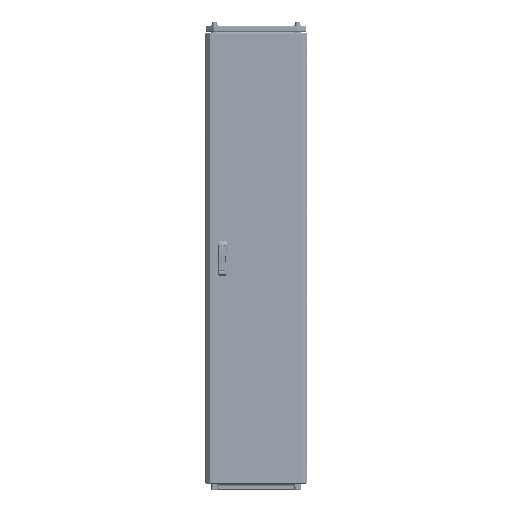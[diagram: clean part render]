
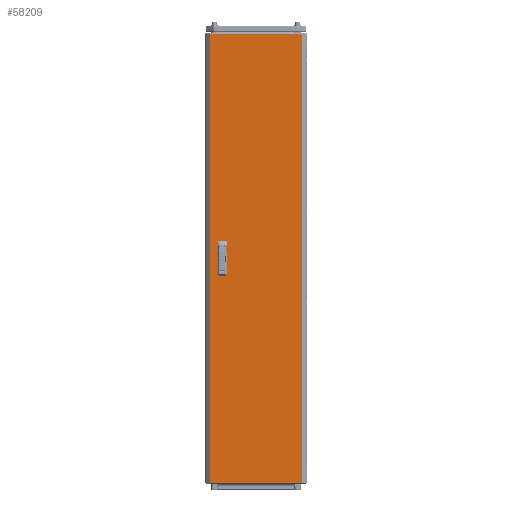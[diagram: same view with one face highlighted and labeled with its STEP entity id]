
A CAD part, top view. The second image highlights one B-rep face of the part: STEP entity #58209.
In plain terms, the highlighted planar face has unit normal (0, 0, 1).
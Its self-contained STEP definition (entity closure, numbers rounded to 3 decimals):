
#254 = EDGE_CURVE ( 'NONE', #63213, #200160, #193614, .T. ) ;
#410 = VERTEX_POINT ( 'NONE', #139336 ) ;
#3100 = EDGE_CURVE ( 'NONE', #15030, #108445, #29573, .T. ) ;
#5612 = CARTESIAN_POINT ( 'NONE',  ( -142.5, -12.5, 0. ) ) ;
#9098 = ORIENTED_EDGE ( 'NONE', *, *, #238862, .T. ) ;
#9614 = DIRECTION ( 'NONE',  ( 0., 1., 0. ) ) ;
#9977 = VECTOR ( 'NONE', #79504, 1000. ) ;
#10530 = DIRECTION ( 'NONE',  ( 0., -1., 0. ) ) ;
#13150 = CARTESIAN_POINT ( 'NONE',  ( 177.875, -869.5, 0. ) ) ;
#14720 = DIRECTION ( 'NONE',  ( -1., 0., 0. ) ) ;
#15030 = VERTEX_POINT ( 'NONE', #71190 ) ;
#18045 = ORIENTED_EDGE ( 'NONE', *, *, #35035, .F. ) ;
#18335 = LINE ( 'NONE', #226980, #133010 ) ;
#19978 = ORIENTED_EDGE ( 'NONE', *, *, #113082, .F. ) ;
#29234 = CARTESIAN_POINT ( 'NONE',  ( -177.875, 869.5, 0. ) ) ;
#29252 = LINE ( 'NONE', #197345, #104530 ) ;
#29573 = LINE ( 'NONE', #239360, #109681 ) ;
#35035 = EDGE_CURVE ( 'NONE', #136163, #144313, #231529, .T. ) ;
#36386 = VECTOR ( 'NONE', #144486, 1000. ) ;
#36800 = AXIS2_PLACEMENT_3D ( 'NONE', #105258, #236586, #48805 ) ;
#38153 = CARTESIAN_POINT ( 'NONE',  ( -117.5, 12.5, 0. ) ) ;
#40149 = CARTESIAN_POINT ( 'NONE',  ( -117.5, -12.5, 0. ) ) ;
#40312 = VERTEX_POINT ( 'NONE', #113988 ) ;
#48805 = DIRECTION ( 'NONE',  ( -1., 0., 0. ) ) ;
#52642 = CARTESIAN_POINT ( 'NONE',  ( -142.5, -62.5, 0. ) ) ;
#52842 = VECTOR ( 'NONE', #113293, 1000. ) ;
#58209 = ADVANCED_FACE ( 'NONE', ( #70825, #200940, #237793 ), #220574, .F. ) ;
#58551 = ORIENTED_EDGE ( 'NONE', *, *, #129957, .T. ) ;
#63213 = VERTEX_POINT ( 'NONE', #194286 ) ;
#68603 = DIRECTION ( 'NONE',  ( 1., 0., 0. ) ) ;
#70825 = FACE_BOUND ( 'NONE', #140730, .T. ) ;
#71190 = CARTESIAN_POINT ( 'NONE',  ( -142.5, 12.5, 0. ) ) ;
#73153 = LINE ( 'NONE', #13150, #36386 ) ;
#74921 = VECTOR ( 'NONE', #102706, 1000. ) ;
#79504 = DIRECTION ( 'NONE',  ( 0., -1., 0. ) ) ;
#82713 = CARTESIAN_POINT ( 'NONE',  ( -117.5, -62.5, 0. ) ) ;
#88441 = ORIENTED_EDGE ( 'NONE', *, *, #205636, .F. ) ;
#91504 = EDGE_CURVE ( 'NONE', #108445, #116427, #181174, .T. ) ;
#101184 = CARTESIAN_POINT ( 'NONE',  ( -117.5, 62.5, 0. ) ) ;
#102706 = DIRECTION ( 'NONE',  ( 1., 0., 0. ) ) ;
#104530 = VECTOR ( 'NONE', #9614, 1000. ) ;
#104553 = EDGE_LOOP ( 'NONE', ( #19978, #224230, #88441, #18045 ) ) ;
#105258 = CARTESIAN_POINT ( 'NONE',  ( 0., 0., 0. ) ) ;
#106948 = EDGE_CURVE ( 'NONE', #116427, #40312, #240950, .T. ) ;
#107381 = CARTESIAN_POINT ( 'NONE',  ( -142.5, -62.5, 0. ) ) ;
#107901 = LINE ( 'NONE', #52642, #168096 ) ;
#108445 = VERTEX_POINT ( 'NONE', #38153 ) ;
#108860 = VECTOR ( 'NONE', #14720, 1000. ) ;
#109644 = CARTESIAN_POINT ( 'NONE',  ( -142.5, 62.5, 0. ) ) ;
#109681 = VECTOR ( 'NONE', #160879, 1000. ) ;
#113082 = EDGE_CURVE ( 'NONE', #198361, #136163, #182823, .T. ) ;
#113293 = DIRECTION ( 'NONE',  ( -1., 0., 0. ) ) ;
#113988 = CARTESIAN_POINT ( 'NONE',  ( -142.5, 62.5, 0. ) ) ;
#114959 = CARTESIAN_POINT ( 'NONE',  ( -177.875, -869.5, 0. ) ) ;
#115287 = VERTEX_POINT ( 'NONE', #82713 ) ;
#116427 = VERTEX_POINT ( 'NONE', #101184 ) ;
#121466 = ORIENTED_EDGE ( 'NONE', *, *, #186275, .F. ) ;
#122327 = CARTESIAN_POINT ( 'NONE',  ( -177.875, -869.5, 0. ) ) ;
#128790 = VECTOR ( 'NONE', #161721, 1000. ) ;
#129566 = CARTESIAN_POINT ( 'NONE',  ( 177.875, 869.5, 0. ) ) ;
#129957 = EDGE_CURVE ( 'NONE', #149146, #63213, #213379, .T. ) ;
#133010 = VECTOR ( 'NONE', #166845, 1000. ) ;
#136163 = VERTEX_POINT ( 'NONE', #5612 ) ;
#139336 = CARTESIAN_POINT ( 'NONE',  ( 177.875, -869.5, 0. ) ) ;
#139894 = ORIENTED_EDGE ( 'NONE', *, *, #106948, .F. ) ;
#140730 = EDGE_LOOP ( 'NONE', ( #139894, #193794, #184442, #121466 ) ) ;
#144313 = VERTEX_POINT ( 'NONE', #107381 ) ;
#144486 = DIRECTION ( 'NONE',  ( 0., 1., 0. ) ) ;
#149146 = VERTEX_POINT ( 'NONE', #129566 ) ;
#151344 = ORIENTED_EDGE ( 'NONE', *, *, #254, .T. ) ;
#160879 = DIRECTION ( 'NONE',  ( 1., 0., 0. ) ) ;
#161206 = EDGE_CURVE ( 'NONE', #115287, #198361, #29252, .T. ) ;
#161721 = DIRECTION ( 'NONE',  ( -1., 0., 0. ) ) ;
#166845 = DIRECTION ( 'NONE',  ( 0., -1., 0. ) ) ;
#168096 = VECTOR ( 'NONE', #68603, 1000. ) ;
#175197 = ORIENTED_EDGE ( 'NONE', *, *, #188808, .T. ) ;
#175219 = CARTESIAN_POINT ( 'NONE',  ( -177.875, -869.5, 0. ) ) ;
#179206 = CARTESIAN_POINT ( 'NONE',  ( -142.5, -12.5, 0. ) ) ;
#181174 = LINE ( 'NONE', #199614, #202427 ) ;
#182823 = LINE ( 'NONE', #179206, #108860 ) ;
#184442 = ORIENTED_EDGE ( 'NONE', *, *, #3100, .F. ) ;
#186275 = EDGE_CURVE ( 'NONE', #40312, #15030, #18335, .T. ) ;
#188808 = EDGE_CURVE ( 'NONE', #200160, #410, #192327, .T. ) ;
#189446 = VECTOR ( 'NONE', #10530, 1000. ) ;
#192327 = LINE ( 'NONE', #122327, #74921 ) ;
#193614 = LINE ( 'NONE', #175219, #9977 ) ;
#193794 = ORIENTED_EDGE ( 'NONE', *, *, #91504, .F. ) ;
#194286 = CARTESIAN_POINT ( 'NONE',  ( -177.875, 869.5, 0. ) ) ;
#197066 = CARTESIAN_POINT ( 'NONE',  ( -142.5, -62.5, 0. ) ) ;
#197345 = CARTESIAN_POINT ( 'NONE',  ( -117.5, -62.5, 0. ) ) ;
#198361 = VERTEX_POINT ( 'NONE', #40149 ) ;
#199614 = CARTESIAN_POINT ( 'NONE',  ( -117.5, 12.5, 0. ) ) ;
#200160 = VERTEX_POINT ( 'NONE', #114959 ) ;
#200940 = FACE_BOUND ( 'NONE', #104553, .T. ) ;
#202427 = VECTOR ( 'NONE', #236470, 1000. ) ;
#205636 = EDGE_CURVE ( 'NONE', #144313, #115287, #107901, .T. ) ;
#213379 = LINE ( 'NONE', #29234, #128790 ) ;
#220574 = PLANE ( 'NONE',  #36800 ) ;
#220799 = EDGE_LOOP ( 'NONE', ( #9098, #58551, #151344, #175197 ) ) ;
#224230 = ORIENTED_EDGE ( 'NONE', *, *, #161206, .F. ) ;
#226980 = CARTESIAN_POINT ( 'NONE',  ( -142.5, 12.5, 0. ) ) ;
#231529 = LINE ( 'NONE', #197066, #189446 ) ;
#236470 = DIRECTION ( 'NONE',  ( 0., 1., 0. ) ) ;
#236586 = DIRECTION ( 'NONE',  ( 0., 0., -1. ) ) ;
#237793 = FACE_OUTER_BOUND ( 'NONE', #220799, .T. ) ;
#238862 = EDGE_CURVE ( 'NONE', #410, #149146, #73153, .T. ) ;
#239360 = CARTESIAN_POINT ( 'NONE',  ( -142.5, 12.5, 0. ) ) ;
#240950 = LINE ( 'NONE', #109644, #52842 ) ;
